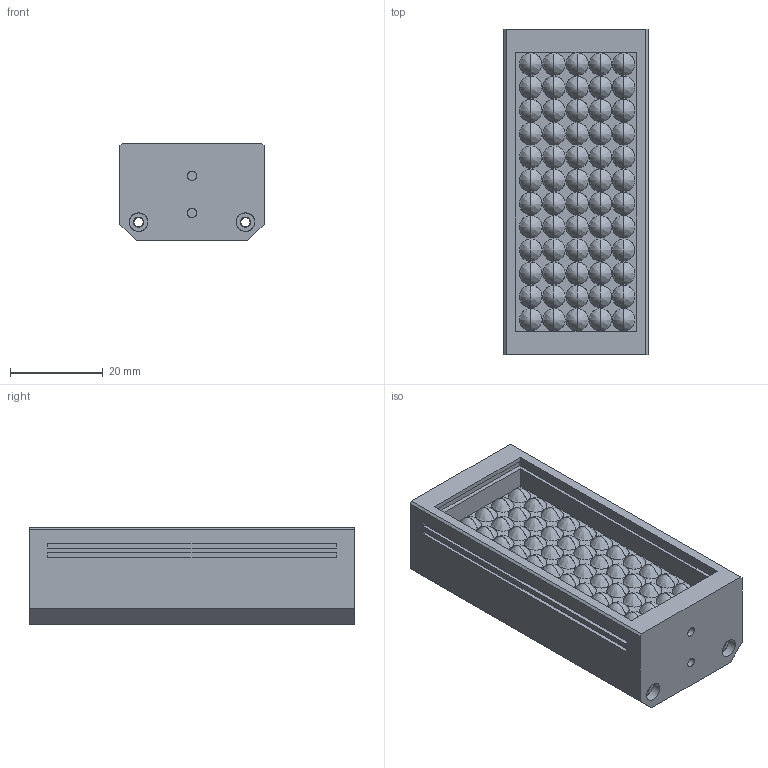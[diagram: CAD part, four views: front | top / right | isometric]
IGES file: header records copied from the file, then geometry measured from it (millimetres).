
Start section: SolidWorks IGES file using analytic representation for surfaces
Global section: file name: C:\Users\Administrator\Desktop\20200117165104728743.IGS; native system: SolidWorks 2019; preprocessor: SolidWorks 2019; author: Administrator; date: 200227.150823; units: millimetre
Bounding box: 31 x 70 x 21 mm (x, y, z)
Surface area: 19227.8 mm2 (no closed solid volume)
Topology: 0 solids, 0 shells, 299 faces, 2821 edges, 2701 vertices
Faces by surface type: bspline 260, revolution 39
